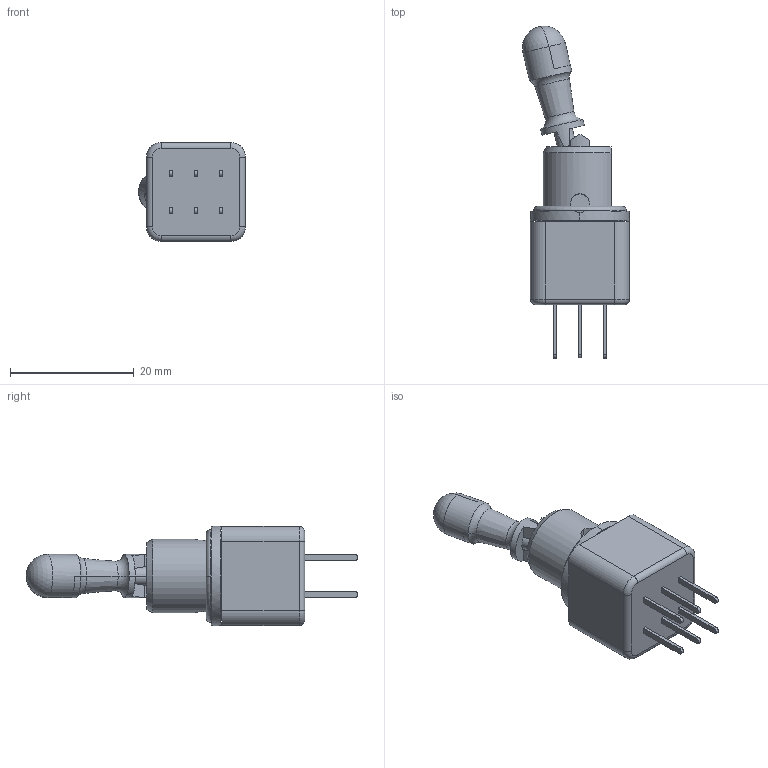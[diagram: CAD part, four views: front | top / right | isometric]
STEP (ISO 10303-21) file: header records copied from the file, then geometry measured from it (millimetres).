
FILE_DESCRIPTION((''),'2;1');
FILE_NAME('12246_2VX778','2011-09-06T',('be'),(''),'PRO/ENGINEER BY PARAMETRIC TECHNOLOGY CORPORATION, 2011190','PRO/ENGINEER BY PARAMETRIC TECHNOLOGY CORPORATION, 2011190','');
FILE_SCHEMA(('CONFIG_CONTROL_DESIGN'));
Length unit declared in the file: millimetre
Products named in the file (1): 12246_2VX778
Bounding box: 17.28 x 53.63 x 16 mm (x, y, z)
Volume: 2771 mm3; surface area: 5842.8 mm2
Topology: 4 solids, 4 shells, 661 faces, 1795 edges, 1165 vertices
Faces by surface type: plane 469, cylinder 135, cone 29, torus 16, sphere 12
Entity records: 21303 total; most frequent: CARTESIAN_POINT 4442, ORIENTED_EDGE 3578, DIRECTION 3384, EDGE_CURVE 1789, VECTOR 1372, LINE 1372, VERTEX_POINT 1165, AXIS2_PLACEMENT_3D 1006
